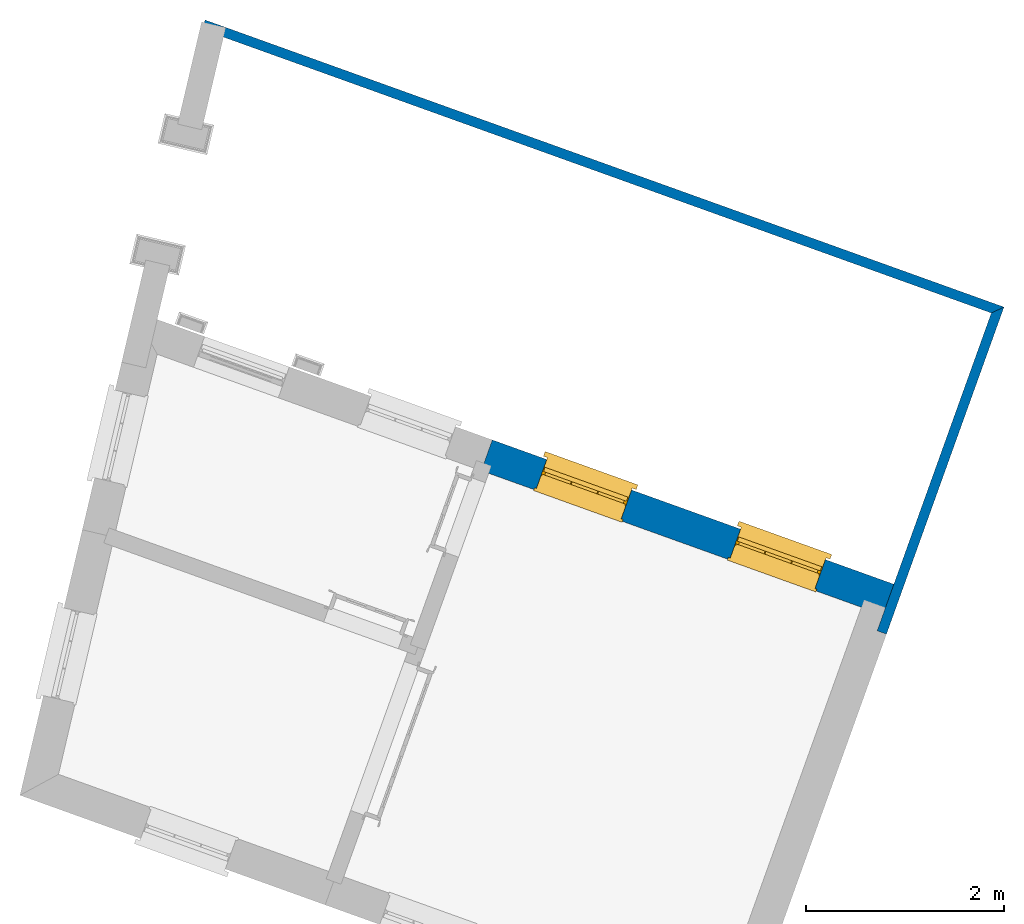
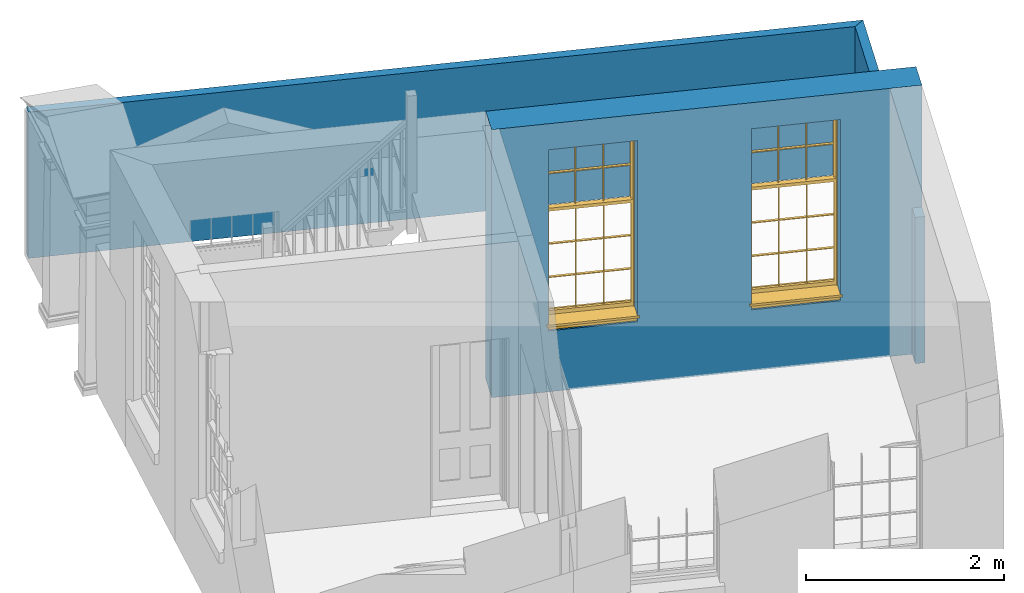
# One storey, part 6 of 6: 3 walls, 2 windows, 2 openings.
"""IFC4 building model written with IfcOpenShell, lengths in metres."""

from ifc_helpers import new_model, si_unit, frame, origin, origin_with_axes, place, context, subcontext, project, spatial, polyline, outline, extrude, faceted_brep, source, transform, mapped, material, layer, layer_set, layer_usage, type_object, type_shapes, element, fill, save


model = new_model("IFC4")

# Units and contexts
model_context = context("Model", 3, world=origin_with_axes())
body_context = subcontext(model_context, "Body", "Model", "MODEL_VIEW")
ifc_project = project(units=[si_unit("PLANEANGLEUNIT", "RADIAN"), si_unit("MASSUNIT", "GRAM", prefix="KILO"), si_unit("FORCEUNIT", "NEWTON", prefix="KILO"), si_unit("LENGTHUNIT", "METRE"), si_unit("AREAUNIT", "SQUARE_METRE"), si_unit("VOLUMEUNIT", "CUBIC_METRE")], contexts=[model_context, model_context])

# Sites, building, storey
site_1_placement = place(None, origin_with_axes())
site_1 = spatial("IfcSite", under=ifc_project, at=site_1_placement, Name="Tamar")
site_2_placement = place(site_1_placement, origin_with_axes())
site_2 = spatial("IfcSite", under=site_1, at=site_2_placement, Name="Site plot-22", CompositionType="ELEMENT")
building_placement = place(None, origin_with_axes())
building = spatial("IfcBuilding", under=site_2, at=building_placement, Name="Building plot-22", CompositionType="ELEMENT")
storey_placement = place(None, frame((0.0, 0.0, 24.5), z_axis=(0.0, 0.0, 1.0), x_axis=(1.0, 0.0, 0.0)))
storey = spatial("IfcBuildingStorey", under=building, at=storey_placement, Name="plot-22 0", CompositionType="ELEMENT", Elevation=24.5)

# Wall, openings, windows
ifc_material_1 = material(Name="Masonry")
ifc_layer_1 = layer(ifc_material_1, 0.33, ventilated=False)
ifc_layer_set_1 = layer_set([ifc_layer_1], Name="exterior_0.08_0.25")
ifc_layer_usage_1 = layer_usage(ifc_layer_set_1, "AXIS2", "POSITIVE", -0.25)
wall_type_1 = type_object("IfcWallType", Name="exterior_0.08_0.25", PredefinedType="SOLIDWALL", material=ifc_layer_set_1)
wall_1_placement = place(storey_placement, frame((258.344209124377, 273.617284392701, 0.0), z_axis=(0.0, 0.0, 1.0), x_axis=(-0.941087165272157, 0.338164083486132, 0.0)))
wall_1 = element("IfcWall", 1, at=wall_1_placement, inside=storey, type_object=wall_type_1, material=ifc_layer_usage_1, Name="exterior", context=body_context, shape_type="SweptSolid", body=[
    extrude(outline(polyline([(-0.250000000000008, 0.0799999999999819), (-0.250000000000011, -0.249999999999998), (4.15963962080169, -0.250000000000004), (4.1596396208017, 0.0799999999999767), (-0.250000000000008, 0.0799999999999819)])), origin_with_axes(), (0.0, 0.0, 1.0), 3.3),
])
opening_1_placement = place(wall_1_placement, frame((0.584909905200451, 0.0, 0.75)))
opening_1 = element("IfcOpeningElement", 2, at=opening_1_placement, cuts=wall_1, Name="My Opening", ObjectType="Opening", context=body_context, shape_type="SweptSolid", body=[
    extrude(outline(polyline([(0.0, -0.270000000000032), (0.910000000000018, -0.270000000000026), (0.909999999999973, 1.09999999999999), (-4.47419878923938e-14, 1.09999999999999), (0.0, -0.270000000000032)])), origin_with_axes(), (0.0, 0.0, 1.0), 2.23),
])
opening_2_placement = place(wall_1_placement, frame((2.66472971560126, 0.0, 0.75)))
opening_2 = element("IfcOpeningElement", 3, at=opening_2_placement, cuts=wall_1, Name="My Opening", ObjectType="Opening", context=body_context, shape_type="SweptSolid", body=[
    extrude(outline(polyline([(0.0, -0.270000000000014), (0.910000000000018, -0.270000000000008), (0.910000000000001, 1.10000000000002), (-1.82076576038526e-14, 1.10000000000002), (0.0, -0.270000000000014)])), origin_with_axes(), (0.0, 0.0, 1.0), 2.23),
])
window_type = type_object("IfcWindowType", Name="sash_big_taller", PartitioningType="DOUBLE_PANEL_HORIZONTAL", PredefinedType="NOTDEFINED")
shared_shape = source(origin(), body_context, "Body", "Brep", [
    faceted_brep([(0.033125, 0.145, 1.385209), (0.01, 0.145, 1.385209), (0.033125, 0.145, 1.786042), (0.876875, 0.145, 1.385209), (0.876875, 0.145, 1.786042), (0.9, 0.145, 1.385209), (0.876875, 0.145, 1.796042), (0.876875, 0.145, 2.196875), (0.9, 0.145, 2.22), (0.033125, 0.145, 2.196875), (0.033125, 0.145, 1.796042), (0.01, 0.145, 2.22), (0.876875, 0.115, 1.786042), (0.876875, 0.115, 1.385209), (0.9, 0.115, 1.347084), (0.033125, 0.115, 2.196875), (0.01, 0.115, 2.22), (0.033125, 0.115, 1.796042), (0.01, 0.115, 1.347084), (0.033125, 0.115, 1.385209), (0.033125, 0.115, 1.786042), (0.876875, 0.115, 2.196875), (0.876875, 0.115, 1.796042), (0.9, 0.115, 2.22), (0.033125, 0.145, 1.347084), (0.01, 0.145, 1.347084), (0.033125, 0.145, 0.94625), (0.876875, 0.145, 1.347084), (0.876875, 0.145, 0.94625), (0.9, 0.145, 1.347084), (0.876875, 0.145, 0.52625), (0.876875, 0.145, 0.125417), (0.9, 0.145, 0.077167), (0.033125, 0.145, 0.125417), (0.033125, 0.145, 0.52625), (0.01, 0.145, 0.077167), (-0.0425, 0.0, 0.01), (-0.0425, -0.05, 0.001667), (0.0, 0.0, 0.01), (0.9525, 0.0, 0.01), (0.91, 0.0, 0.01), (0.9525, -0.05, 0.001667), (-0.02, 0.33, 0.077167), (0.0, 0.33, 0.077167), (-0.02, 0.36, 0.077167), (0.0, 0.19, 0.077167), (0.01, 0.19, 0.077167), (0.91, 0.19, 0.077167), (0.91, 0.33, 0.077167), (0.9, 0.19, 0.077167), (0.93, 0.33, 0.077167), (0.93, 0.36, 0.077167), (0.01, 0.175, 1.385209), (0.9, 0.175, 1.385209), (0.876875, 0.175, 0.125417), (0.876875, 0.175, 0.52625), (0.9, 0.175, 0.077167), (0.876875, 0.175, 0.94625), (0.876875, 0.175, 1.347084), (0.033125, 0.175, 0.125417), (0.01, 0.175, 0.077167), (0.033125, 0.175, 0.52625), (0.033125, 0.175, 1.347084), (0.033125, 0.175, 0.94625), (-0.02, 0.33, 0.052167), (-0.02, 0.36, 0.052167), (0.93, 0.36, 0.052167), (0.93, 0.33, 0.052167), (0.91, 0.33, 0.052167), (0.0, 0.33, 0.052167), (0.91, 0.1, 0.026667), (0.0, 0.1, 0.026667), (-0.0425, -0.05, -0.123333), (0.9525, -0.05, -0.123333), (-0.0425, 0.0, -0.123333), (0.9525, 0.0, -0.123333), (0.01, 0.19, 2.22), (0.9, 0.19, 2.22), (0.0, 0.19, 2.23), (0.91, 0.19, 2.23), (0.01, 0.1, 0.077167), (0.9, 0.1, 0.077167), (0.592292, 0.145, 0.125417), (0.592292, 0.175, 0.125417), (0.317708, 0.175, 0.125417), (0.317708, 0.145, 0.125417), (0.592292, 0.145, 0.53625), (0.317708, 0.145, 0.53625), (0.317708, 0.145, 0.52625), (0.592292, 0.145, 0.52625), (0.592292, 0.175, 0.53625), (0.317708, 0.175, 0.53625), (0.592292, 0.115, 1.796042), (0.592292, 0.145, 1.796042), (0.317708, 0.145, 1.796042), (0.317708, 0.115, 1.796042), (0.317708, 0.115, 1.786042), (0.592292, 0.115, 1.786042), (0.317708, 0.145, 1.786042), (0.592292, 0.145, 1.786042), (0.602292, 0.115, 1.786042), (0.592292, 0.115, 1.385209), (0.602292, 0.115, 1.385209), (0.602292, 0.145, 1.385209), (0.592292, 0.145, 1.385209), (0.602292, 0.145, 1.786042), (0.876875, 0.145, 0.53625), (0.876875, 0.175, 0.53625), (0.602292, 0.175, 0.53625), (0.602292, 0.145, 0.53625), (0.317708, 0.175, 0.52625), (0.307708, 0.175, 0.125417), (0.307708, 0.175, 0.52625), (0.602292, 0.175, 0.52625), (0.602292, 0.175, 0.125417), (0.592292, 0.175, 0.52625), (0.307708, 0.175, 0.53625), (0.033125, 0.175, 0.53625), (0.317708, 0.175, 1.347084), (0.317708, 0.175, 0.94625), (0.307708, 0.175, 0.94625), (0.307708, 0.175, 1.347084), (0.602292, 0.175, 1.347084), (0.602292, 0.175, 0.94625), (0.592292, 0.175, 0.94625), (0.592292, 0.175, 1.347084), (0.307708, 0.145, 0.52625), (0.307708, 0.145, 0.125417), (0.307708, 0.145, 0.53625), (0.033125, 0.145, 0.53625), (0.307708, 0.145, 1.347084), (0.307708, 0.145, 0.94625), (0.592292, 0.145, 1.347084), (0.592292, 0.145, 0.94625), (0.317708, 0.145, 0.94625), (0.317708, 0.145, 1.347084), (0.602292, 0.145, 0.94625), (0.602292, 0.145, 1.347084), (0.602292, 0.145, 0.52625), (0.602292, 0.145, 0.125417), (0.307708, 0.115, 1.796042), (0.307708, 0.115, 1.786042), (0.307708, 0.115, 1.385209), (0.317708, 0.115, 1.385209), (0.317708, 0.115, 2.196875), (0.307708, 0.115, 2.196875), (0.602292, 0.115, 2.196875), (0.592292, 0.115, 2.196875), (0.602292, 0.115, 1.796042), (0.602292, 0.145, 1.796042), (0.307708, 0.145, 1.796042), (0.307708, 0.145, 2.196875), (0.317708, 0.145, 2.196875), (0.592292, 0.145, 2.196875), (0.602292, 0.145, 2.196875), (0.307708, 0.145, 1.786042), (0.317708, 0.145, 1.385209), (0.307708, 0.145, 1.385209), (0.876875, 0.175, 0.93625), (0.033125, 0.175, 0.93625), (0.033125, 0.145, 0.93625), (0.876875, 0.145, 0.93625), (0.91, 0.1, 2.23), (0.9, 0.1, 2.22), (0.01, 0.1, 2.22), (0.0, 0.1, 2.23), (0.91, 0.0, 0.0), (0.0, 0.0, 0.0), (0.91, 0.33, 0.0), (0.0, 0.33, 0.0), (0.317708, 0.145, 0.93625), (0.592292, 0.145, 0.93625), (0.317708, 0.175, 0.93625), (0.307708, 0.175, 0.93625), (0.602292, 0.175, 0.93625), (0.592292, 0.175, 0.93625), (0.307708, 0.145, 0.93625), (0.602292, 0.145, 0.93625)], [[[0, 1, 2]], [[3, 4, 5]], [[6, 7, 8]], [[9, 10, 11]], [[12, 13, 14]], [[15, 16, 17]], [[18, 19, 20]], [[21, 22, 23]], [[24, 25, 26]], [[27, 28, 29]], [[30, 31, 32]], [[33, 34, 35]], [[14, 27, 29]], [[25, 24, 18]], [[36, 37, 38]], [[39, 40, 41]], [[42, 43, 44]], [[45, 46, 43]], [[47, 48, 49]], [[50, 51, 48]], [[1, 0, 52]], [[5, 53, 3]], [[54, 55, 56]], [[57, 58, 53]], [[59, 60, 61]], [[62, 63, 52]], [[48, 43, 46, 49]], [[51, 44, 43, 48]], [[64, 42, 44, 65]], [[65, 44, 51, 66]], [[66, 51, 50, 67]], [[65, 66, 68, 69]], [[60, 56, 49, 46]], [[70, 71, 38, 40]], [[37, 41, 40, 38]], [[37, 72, 73, 41]], [[74, 75, 73, 72]], [[8, 11, 76, 77]], [[76, 78, 79, 77]], [[32, 35, 80, 81]], [[81, 80, 71, 70]], [[82, 83, 84, 85]], [[86, 87, 88, 89]], [[86, 90, 91, 87]], [[92, 93, 94, 95]], [[92, 95, 96, 97]], [[96, 98, 99, 97]], [[100, 97, 101, 102]], [[103, 104, 99, 105]], [[97, 99, 104, 101]], [[102, 103, 105, 100]], [[106, 107, 108, 109]], [[110, 84, 111, 112]], [[113, 114, 83, 115]], [[116, 112, 61, 117]], [[90, 115, 110, 91]], [[118, 119, 120, 121]], [[122, 123, 124, 125]], [[113, 108, 107, 55]], [[126, 112, 111, 127]], [[34, 61, 112, 126]], [[89, 115, 83, 82]], [[88, 110, 115, 89]], [[85, 84, 110, 88]], [[128, 116, 117, 129]], [[130, 121, 120, 131]], [[132, 125, 124, 133]], [[134, 119, 118, 135]], [[136, 123, 122, 137]], [[138, 113, 55, 30]], [[139, 114, 113, 138]], [[138, 30, 106, 109]], [[88, 126, 127, 85]], [[138, 89, 82, 139]], [[137, 132, 133, 136]], [[128, 129, 34, 126]], [[135, 130, 131, 134]], [[140, 17, 20, 141]], [[96, 141, 142, 143]], [[144, 145, 140, 95]], [[146, 147, 92, 148]], [[100, 12, 22, 148]], [[149, 6, 4, 105]], [[94, 150, 151, 152]], [[149, 93, 153, 154]], [[99, 98, 94, 93]], [[155, 2, 10, 150]], [[156, 157, 155, 98]], [[141, 155, 157, 142]], [[20, 2, 155, 141]], [[143, 156, 98, 96]], [[140, 150, 10, 17]], [[145, 151, 150, 140]], [[147, 153, 93, 92]], [[95, 94, 152, 144]], [[22, 6, 149, 148]], [[148, 149, 154, 146]], [[100, 105, 4, 12]], [[109, 86, 89, 138]], [[108, 113, 115, 90]], [[91, 110, 112, 116]], [[87, 128, 126, 88]], [[97, 100, 148, 92]], [[141, 96, 95, 140]], [[98, 155, 150, 94]], [[105, 99, 93, 149]], [[143, 101, 104, 156]], [[135, 118, 125, 132]], [[144, 152, 153, 147]], [[127, 111, 59, 33]], [[15, 9, 151, 145]], [[146, 154, 7, 21]], [[31, 54, 114, 139]], [[36, 74, 72, 37]], [[39, 41, 73, 75]], [[18, 14, 101, 143]], [[23, 16, 144, 147]], [[83, 56, 60, 84]], [[52, 53, 125, 118]], [[53, 52, 156, 104]], [[11, 8, 153, 152]], [[14, 18, 135, 132]], [[2, 1, 11, 10]], [[8, 5, 4, 6]], [[57, 53, 56, 158]], [[60, 52, 63, 159]], [[26, 25, 35, 160]], [[32, 29, 28, 161]], [[14, 23, 22, 12]], [[18, 20, 17, 16]], [[19, 0, 2, 20]], [[17, 10, 9, 15]], [[12, 4, 3, 13]], [[21, 7, 6, 22]], [[27, 58, 57, 28]], [[30, 55, 54, 31]], [[33, 59, 61, 34]], [[26, 63, 62, 24]], [[5, 8, 77, 53]], [[76, 11, 1, 52]], [[46, 45, 78, 76]], [[49, 77, 79, 47]], [[70, 162, 163, 81]], [[71, 80, 164, 165]], [[19, 142, 157, 0]], [[102, 13, 3, 103]], [[121, 130, 24, 62]], [[29, 32, 81, 14]], [[80, 35, 25, 18]], [[60, 46, 76, 52]], [[77, 49, 56, 53]], [[23, 14, 81, 163]], [[16, 164, 80, 18]], [[35, 85, 127]], [[127, 33, 35]], [[139, 82, 32]], [[32, 31, 139]], [[32, 82, 85, 35]], [[102, 101, 14]], [[14, 13, 102]], [[18, 143, 142]], [[142, 19, 18]], [[146, 21, 23]], [[23, 147, 146]], [[16, 15, 145]], [[145, 144, 16]], [[11, 152, 151]], [[151, 9, 11]], [[154, 153, 8]], [[8, 7, 154]], [[23, 163, 164, 16]], [[162, 165, 164, 163]], [[52, 118, 121]], [[121, 62, 52]], [[125, 53, 122]], [[58, 122, 53]], [[27, 137, 122, 58]], [[56, 83, 114]], [[114, 54, 56]], [[111, 84, 60]], [[60, 59, 111]], [[137, 27, 14]], [[14, 132, 137]], [[130, 135, 18]], [[18, 24, 130]], [[157, 156, 52]], [[52, 0, 157]], [[103, 3, 53]], [[53, 104, 103]], [[79, 78, 165, 162]], [[78, 45, 71, 165]], [[162, 70, 47, 79]], [[166, 75, 74, 167]], [[68, 66, 67]], [[48, 68, 67, 50]], [[69, 64, 65]], [[42, 64, 69, 43]], [[69, 68, 168, 169]], [[70, 68, 48, 47]], [[166, 168, 68, 70]], [[43, 69, 71, 45]], [[69, 169, 167, 71]], [[168, 166, 167, 169]], [[38, 167, 74, 36]], [[71, 167, 38]], [[39, 75, 166, 40]], [[40, 166, 70]], [[133, 134, 170, 171]], [[133, 124, 119, 134]], [[28, 57, 123, 136]], [[172, 91, 116, 173]], [[174, 108, 90, 175]], [[120, 173, 159, 63]], [[124, 175, 172, 119]], [[174, 123, 57, 158]], [[176, 173, 116, 128]], [[160, 159, 173, 176]], [[171, 175, 90, 86]], [[170, 172, 175, 171]], [[87, 91, 172, 170]], [[131, 120, 63, 26]], [[177, 174, 158, 161]], [[109, 108, 174, 177]], [[177, 161, 28, 136]], [[170, 176, 128, 87]], [[177, 171, 86, 109]], [[131, 26, 160, 176]], [[136, 133, 171, 177]], [[123, 174, 175, 124]], [[119, 172, 173, 120]], [[134, 131, 176, 170]], [[129, 117, 159, 160]], [[161, 158, 107, 106]], [[35, 34, 129]], [[35, 129, 160]], [[32, 106, 30]], [[32, 161, 106]], [[56, 55, 107]], [[56, 107, 158]], [[60, 117, 61]], [[60, 159, 117]]]),
])
type_shapes(window_type, [shared_shape])
window_1_placement = place(storey_placement, frame((257.885062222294, 274.069173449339, 0.75), z_axis=(0.0, 0.0, 1.0), x_axis=(-0.856389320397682, 0.307729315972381, 0.0)))
window_1 = element("IfcWindow", 4, at=window_1_placement, inside=storey, type_object=window_type, Name="living outside window", OverallHeight=2.23, OverallWidth=0.91, context=body_context, shape_type="MappedRepresentation", body=[
    mapped(shared_shape, transform((0.0, 0.0, 0.0), scale=1.0)),
])
fill(opening_1, window_1)
window_2_placement = place(storey_placement, frame((255.927770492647, 274.772493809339, 0.75), z_axis=(0.0, 0.0, 1.0), x_axis=(-0.856389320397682, 0.307729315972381, 0.0)))
window_2 = element("IfcWindow", 5, at=window_2_placement, inside=storey, type_object=window_type, Name="living outside window", OverallHeight=2.23, OverallWidth=0.91, context=body_context, shape_type="MappedRepresentation", body=[
    mapped(shared_shape, transform((0.0, 0.0, 0.0), scale=1.0)),
])
fill(opening_2, window_2)

# Walls
ifc_material_2 = material(Name="Masonry")
ifc_layer_2 = layer(ifc_material_2, 0.1, ventilated=False)
ifc_layer_set_2 = layer_set([ifc_layer_2], Name="fence_-0.15_0.25")
ifc_layer_usage_2 = layer_usage(ifc_layer_set_2, "AXIS2", "POSITIVE", -0.25)
wall_type_2 = type_object("IfcWallType", Name="fence_-0.15_0.25", PredefinedType="SOLIDWALL", material=ifc_layer_set_2)
wall_2_placement = place(storey_placement, frame((258.344209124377, 273.617284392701, 0.0), z_axis=(0.0, 0.0, 1.0), x_axis=(0.338164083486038, 0.941087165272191, 0.0)))
element("IfcWall", 6, at=wall_2_placement, inside=storey, type_object=wall_type_2, material=ifc_layer_usage_2, Name="fence", context=body_context, shape_type="SweptSolid", body=[
    extrude(outline(polyline([(-0.249999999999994, -0.150000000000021), (-0.249999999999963, -0.250000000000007), (3.26034206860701, -0.249999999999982), (3.1603420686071, -0.149999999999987), (-0.249999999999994, -0.150000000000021)])), origin_with_axes(), (0.0, 0.0, 1.0), 1.8),
])
wall_3_placement = place(storey_placement, frame((259.362198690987, 276.450278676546, 0.0), z_axis=(0.0, 0.0, 1.0), x_axis=(-0.941087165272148, 0.338164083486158, 0.0)))
element("IfcWall", 7, at=wall_3_placement, inside=storey, type_object=wall_type_2, material=ifc_layer_usage_2, Name="fence", context=body_context, shape_type="SweptSolid", body=[
    extrude(outline(polyline([(-0.149999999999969, -0.150000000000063), (-0.249999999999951, -0.249999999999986), (8.32259369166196, -0.250000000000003), (8.32259369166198, -0.149999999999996), (-0.149999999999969, -0.150000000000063)])), origin_with_axes(), (0.0, 0.0, 1.0), 1.8),
])

save(model, "model.ifc")
